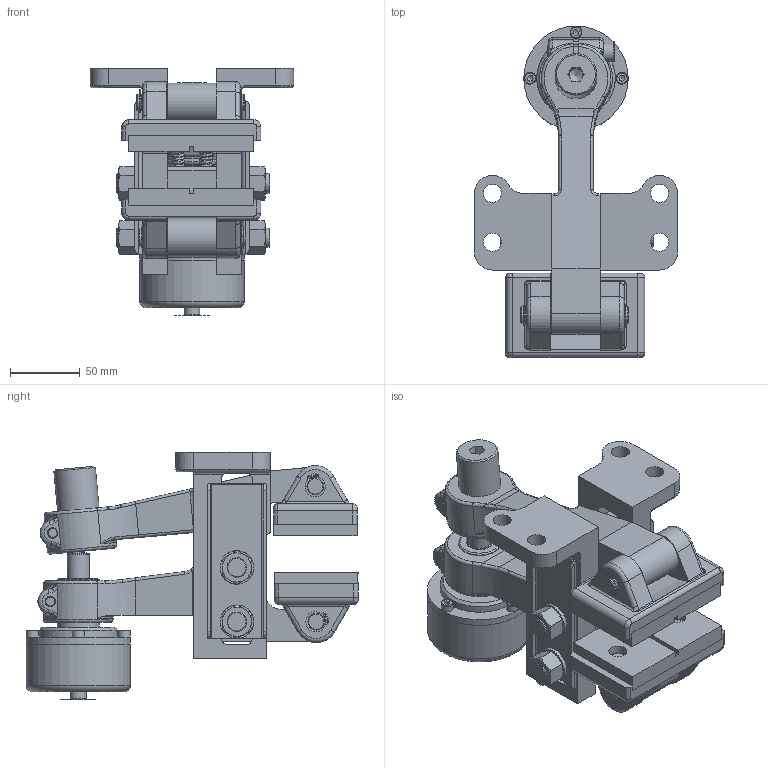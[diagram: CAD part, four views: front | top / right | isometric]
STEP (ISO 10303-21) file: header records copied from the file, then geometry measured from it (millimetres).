
FILE_DESCRIPTION(/* description */ ('','CAx-IF Rec.Pracs.---Representation and Presentation of Product Manufacturing Information (PMI)---4.0---2014-10-13'),/* implementation_level */ '2;1');
FILE_NAME(/* name */ 'X:\INVENTOR\DISEGNI\19_Pinze\STEP x Sito\PNEUM-POSITIVE\19_16_310_04 PPHP310_25,4.stp',/* time_stamp */ '2018-02-14T16:37:55+01:00',/* author */ ('stefano'),/* organization */ (''),/* preprocessor_version */ 'ST-DEVELOPER v17',/* originating_system */ 'Autodesk Inventor 2018',/* authorisation */ '');
FILE_SCHEMA (('AP242_MANAGED_MODEL_BASED_3D_ENGINEERING_MIM_LF { 1 0 10303 442 1 1 4 }'));
Length unit declared in the file: millimetre
Products named in the file (1): 19_16_310_04 PPHP310_25,4_Substitute_1
Bounding box: 146 x 238.5 x 177.7 mm (x, y, z)
Volume: 1378002.9 mm3; surface area: 200900.7 mm2
Topology: 1 solids, 1 shells, 895 faces, 2392 edges, 1520 vertices
Faces by surface type: plane 408, cylinder 234, cone 106, bspline 75, torus 71, sphere 1
Full cylindrical faces by diameter (mm): 1.7 x8, 5 x1, 5.4 x2, 6 x4, 6.5 x4, 8 x2, 8.5 x6, 9 x2, 9.5 x2, 10 x1, 11.445 x1, 11.5 x4, 12 x15, 13 x10, 13.5 x2, 14 x8, 16 x2, 19 x1, 22.6 x1, 30 x2, 35 x1, 56.5 x1, 75 x2
Entity records: 33820 total; most frequent: CARTESIAN_POINT 10976, ORIENTED_EDGE 4734, DIRECTION 4645, EDGE_CURVE 2367, AXIS2_PLACEMENT_3D 1789, VERTEX_POINT 1520, LINE 1067, VECTOR 1067
